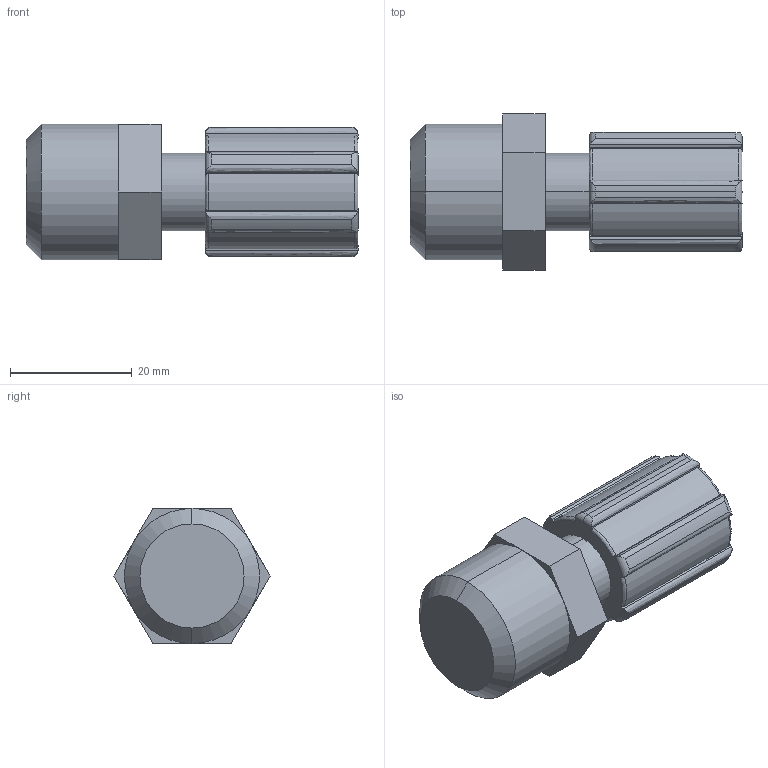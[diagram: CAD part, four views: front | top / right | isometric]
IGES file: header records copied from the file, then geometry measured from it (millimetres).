
Start section: SolidWorks IGES file using analytic representation for surfaces
Global section: file name: S:\Product Visuals\Defeatured Models and Parts Library\Parts Library IGES & STEP\Liquid Fittings\Front Mount liquid Fittings\Flaretek Compatible\30LPM\Fitting Flaretek Compatible  04.IGS; native system: SolidWorks 2012; preprocessor: SolidWorks 2012; author: rachel.dressel; date: 120926.095601; units: inch
Bounding box: 54.61 x 25.66 x 22.23 mm (x, y, z)
Volume: 17255.2 mm3; surface area: 4797.6 mm2
Topology: 1 solids, 1 shells, 90 faces, 244 edges, 159 vertices
Faces by surface type: revolution 61, plane 29
